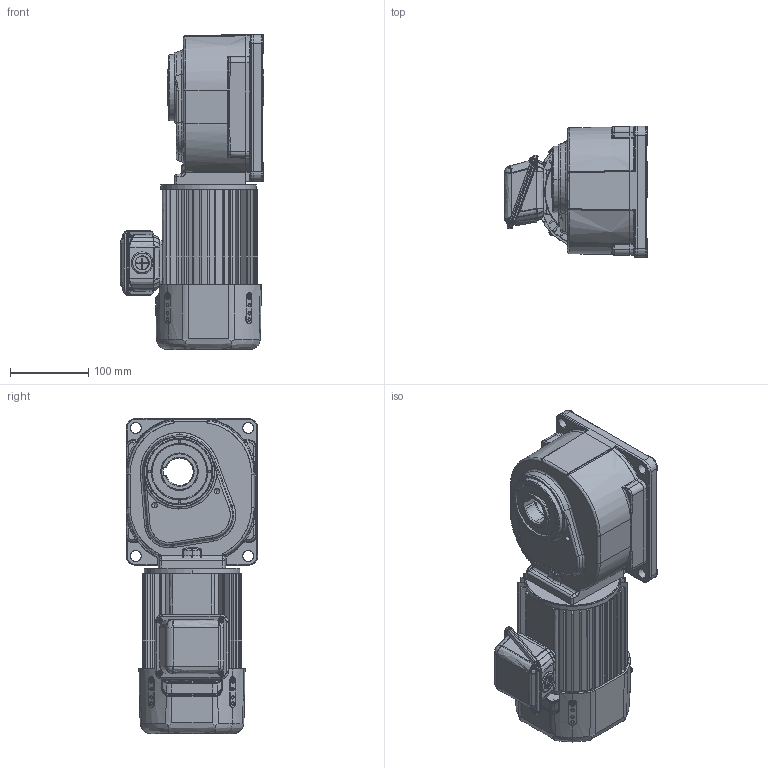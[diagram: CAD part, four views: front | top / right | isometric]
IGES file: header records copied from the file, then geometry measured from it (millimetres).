
Start section: SolidWorks IGES file using analytic representation for surfaces
Global section: file name: \\100.100.100.8\1_共有作業フォルダ\1-5_３Ｄデータ\solidworks\personal-folder\H.Nagayama\HF外形\HF(3D)\igs\TMHFB-04-(5~240).IGS; native system: SolidWorks 2018; preprocessor: SolidWorks 2018; author: sigma-giken; date: 200423.112300; units: millimetre
Bounding box: 184 x 168.35 x 403.67 mm (x, y, z)
Surface area: 533677.1 mm2 (no closed solid volume)
Topology: 0 solids, 0 shells, 1975 faces, 25402 edges, 25336 vertices
Faces by surface type: bspline 1012, revolution 963
